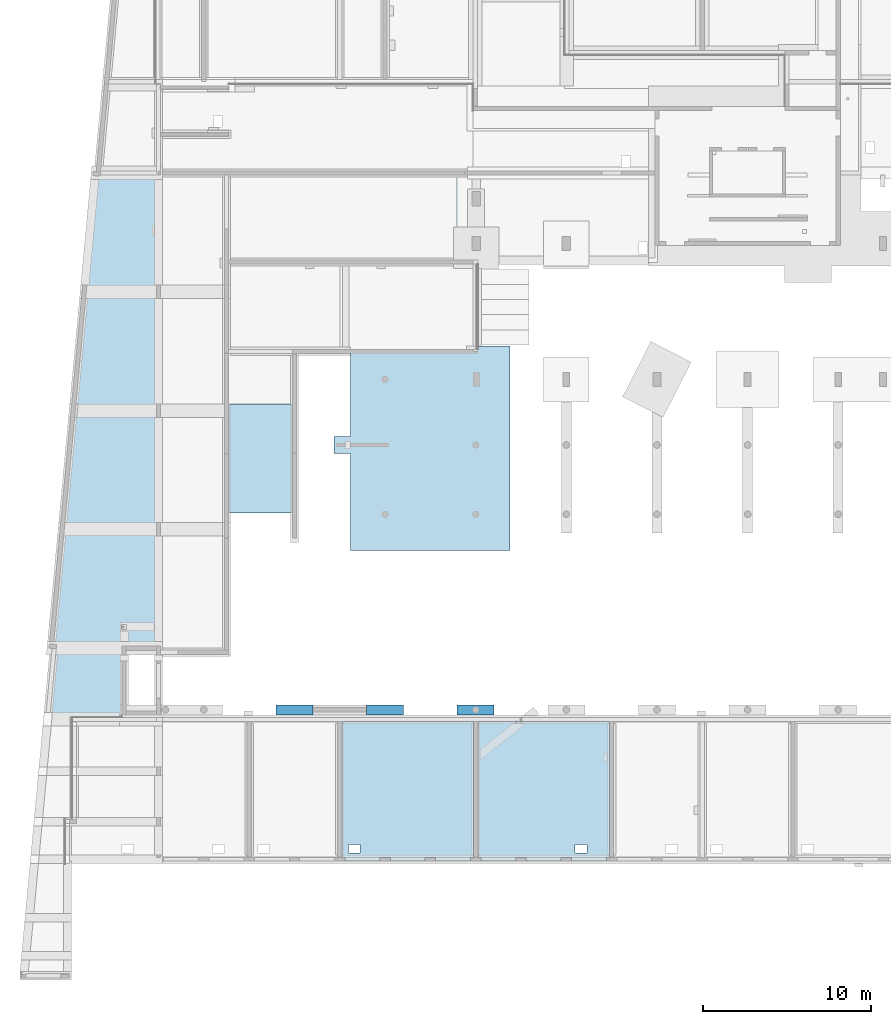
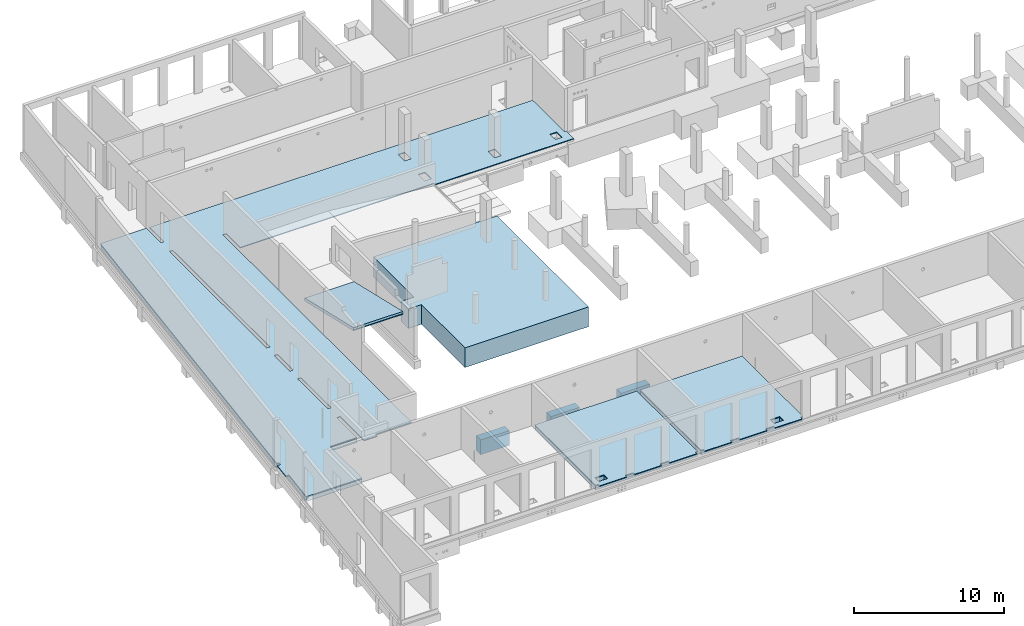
# One storey, part 21 of 60: 12 slabs, 42 openings.
"""IFC2X3 building model written with IfcOpenShell, lengths in millimetres."""

from ifc_helpers import new_model, entity, si_unit, converted_unit, derived_unit, direction, frame, frame_2d, origin, origin_2d_with_axis, place, context, subcontext, project, spatial, polyline, rectangle, outline, extrude, clip, halfspace, material, layer, layer_set, layer_usage, element, save


model = new_model("IFC2X3")

# Units and contexts
model_context = context("Model", 3, precision=0.01, world=origin(), true_north=direction((6.12303176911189e-17, 1.0)))
body_context = subcontext(model_context, "Body", "Model", "MODEL_VIEW")
ifc_project = project(units=[si_unit("LENGTHUNIT", "METRE", prefix="MILLI"), si_unit("AREAUNIT", "SQUARE_METRE"), si_unit("VOLUMEUNIT", "CUBIC_METRE"), converted_unit("PLANEANGLEUNIT", "DEGREE", entity("IfcRatioMeasure", 0.0174532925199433), si_unit("PLANEANGLEUNIT", "RADIAN"), dimensions=[0, 0, 0, 0, 0, 0, 0]), si_unit("MASSUNIT", "GRAM", prefix="KILO"), derived_unit("MASSDENSITYUNIT", [(si_unit("MASSUNIT", "GRAM", prefix="KILO"), 1), (si_unit("LENGTHUNIT", "METRE"), -3)]), si_unit("TIMEUNIT", "SECOND"), si_unit("FREQUENCYUNIT", "HERTZ"), si_unit("THERMODYNAMICTEMPERATUREUNIT", "DEGREE_CELSIUS"), derived_unit("THERMALTRANSMITTANCEUNIT", [(si_unit("MASSUNIT", "GRAM", prefix="KILO"), 1), (si_unit("THERMODYNAMICTEMPERATUREUNIT", "KELVIN"), -1), (si_unit("TIMEUNIT", "SECOND"), -3)]), derived_unit("VOLUMETRICFLOWRATEUNIT", [(si_unit("LENGTHUNIT", "METRE"), 3), (si_unit("TIMEUNIT", "SECOND"), -1)]), si_unit("ELECTRICCURRENTUNIT", "AMPERE"), si_unit("ELECTRICVOLTAGEUNIT", "VOLT"), si_unit("POWERUNIT", "WATT"), si_unit("FORCEUNIT", "NEWTON", prefix="KILO"), si_unit("ILLUMINANCEUNIT", "LUX"), si_unit("LUMINOUSFLUXUNIT", "LUMEN"), si_unit("LUMINOUSINTENSITYUNIT", "CANDELA"), derived_unit("USERDEFINED", [(si_unit("MASSUNIT", "GRAM", prefix="KILO"), -1), (si_unit("LENGTHUNIT", "METRE"), -2), (si_unit("TIMEUNIT", "SECOND"), 3), (si_unit("LUMINOUSFLUXUNIT", "LUMEN"), 1)]), derived_unit("LINEARVELOCITYUNIT", [(si_unit("LENGTHUNIT", "METRE"), 1), (si_unit("TIMEUNIT", "SECOND"), -1)]), si_unit("PRESSUREUNIT", "PASCAL"), derived_unit("USERDEFINED", [(si_unit("LENGTHUNIT", "METRE"), -2), (si_unit("MASSUNIT", "GRAM", prefix="KILO"), 1), (si_unit("TIMEUNIT", "SECOND"), -2)])], contexts=[model_context])

# Site, building, storey
site_placement = place(None, origin())
site = spatial("IfcSite", under=ifc_project, at=site_placement, Name="Default", CompositionType="ELEMENT")
building_placement = place(site_placement, origin())
building = spatial("IfcBuilding", under=site, at=building_placement, Name="niet gebruiken", CompositionType="ELEMENT")
storey_placement = place(building_placement, origin())
storey = spatial("IfcBuildingStorey", under=building, at=storey_placement, Name="00 begane grond", CompositionType="ELEMENT", Elevation=0.0)

# Slab, openings
ifc_material_1 = material(Name="NLRS_f2_beton ihwg")
ifc_layer_1 = layer(ifc_material_1, 70.0)
ifc_layer_set_1 = layer_set([ifc_layer_1], Name="Floor:NLRS_23.21_FL_druklaag d=70_gen")
ifc_layer_usage_1 = layer_usage(ifc_layer_set_1, "AXIS3", "POSITIVE", 0.0)
slab_1_placement = place(storey_placement, frame((2800.0, 200.0, -160.0)))
slab_1 = element("IfcSlab", 1, at=slab_1_placement, inside=storey, material=ifc_layer_usage_1, Name="Floor:NLRS_23.21_FL_druklaag d=70_gen:5", ObjectType="Floor:NLRS_23.21_FL_druklaag d=70_gen", PredefinedType="FLOOR", context=body_context, shape_type="SweptSolid", body=[
    extrude(outline(polyline([(33527.5000000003, -3948.0), (33712.5000000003, -3948.0), (33712.5000000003, 4148.0), (25862.5000000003, 4148.0), (25862.5000000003, -3948.0), (26047.5000000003, -3948.0), (26047.5000000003, -4148.0), (28127.5000000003, -4148.0), (28127.5000000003, -3948.0), (28747.5000000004, -3948.0), (28747.5000000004, -4148.0), (30827.5000000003, -4148.0), (30827.5000000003, -3948.0), (31447.5000000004, -3948.0), (31447.5000000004, -4148.0), (33527.5000000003, -4148.0), (33527.5000000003, -3948.0)])), frame((49937.5, 4148.0, 70.0), z_axis=(0.0, 0.0, -1.0), x_axis=(-1.0, 0.0, 0.0)), (0.0, 0.0, 1.0), 70.0),
])
placement_1 = place(storey_placement, frame((2800.0, 200.0, -160.0)))
placement_2 = place(placement_1, origin())
element("IfcOpeningElement", 2, at=placement_2, cuts=slab_1, ObjectType="Opening", context=body_context, shape_type="SweptSolid", body=[
    extrude(rectangle(XDim=699.999999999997, YDim=500.000000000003, at=origin_2d_with_axis()), frame((89870.0, 725.0, -380.0), z_axis=(0.0, 0.0, 1.0), x_axis=(-1.0, 0.0, 0.0)), (0.0, 0.0, 1.0), 450.0),
])
placement_3 = place(placement_1, origin())
element("IfcOpeningElement", 3, at=placement_3, cuts=slab_1, ObjectType="Opening", context=body_context, shape_type="SweptSolid", body=[
    extrude(rectangle(XDim=699.999999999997, YDim=500.000000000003, at=origin_2d_with_axis()), frame((92570.0, 725.0, -380.0), z_axis=(0.0, 0.0, 1.0), x_axis=(-1.0, 0.0, 0.0)), (0.0, 0.0, 1.0), 450.0),
])
placement_4 = place(placement_1, origin())
element("IfcOpeningElement", 4, at=placement_4, cuts=slab_1, ObjectType="Opening", context=body_context, shape_type="SweptSolid", body=[
    extrude(rectangle(XDim=699.999999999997, YDim=500.000000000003, at=origin_2d_with_axis()), frame((84470.0, 725.0, -380.0), z_axis=(0.0, 0.0, 1.0), x_axis=(-1.0, 0.0, 0.0)), (0.0, 0.0, 1.0), 450.0),
])
placement_5 = place(placement_1, origin())
element("IfcOpeningElement", 5, at=placement_5, cuts=slab_1, ObjectType="Opening", context=body_context, shape_type="SweptSolid", body=[
    extrude(rectangle(XDim=700.000000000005, YDim=500.000000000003, at=origin_2d_with_axis()), frame((70970.0, 725.0, -380.0), z_axis=(0.0, 0.0, 1.0), x_axis=(-1.0, 0.0, 0.0)), (0.0, 0.0, 1.0), 450.0),
])
placement_6 = place(placement_1, origin())
element("IfcOpeningElement", 6, at=placement_6, cuts=slab_1, ObjectType="Opening", context=body_context, shape_type="SweptSolid", body=[
    extrude(rectangle(XDim=700.000000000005, YDim=500.000000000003, at=origin_2d_with_axis()), frame((65570.0, 725.0, -380.0), z_axis=(0.0, 0.0, 1.0), x_axis=(-1.0, 0.0, 0.0)), (0.0, 0.0, 1.0), 450.0),
])
placement_7 = place(placement_1, origin())
element("IfcOpeningElement", 7, at=placement_7, cuts=slab_1, ObjectType="Opening", context=body_context, shape_type="SweptSolid", body=[
    extrude(rectangle(XDim=700.000000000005, YDim=500.000000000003, at=origin_2d_with_axis()), frame((62870.0, 725.0, -380.0), z_axis=(0.0, 0.0, 1.0), x_axis=(-1.0, 0.0, 0.0)), (0.0, 0.0, 1.0), 450.0),
])
placement_8 = place(placement_1, origin())
element("IfcOpeningElement", 8, at=placement_8, cuts=slab_1, ObjectType="Opening", context=body_context, shape_type="SweptSolid", body=[
    extrude(rectangle(XDim=700.000000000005, YDim=500.000000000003, at=origin_2d_with_axis()), frame((57470.0, 725.0, -380.0), z_axis=(0.0, 0.0, 1.0), x_axis=(-1.0, 0.0, 0.0)), (0.0, 0.0, 1.0), 450.0),
])
placement_9 = place(placement_1, origin())
element("IfcOpeningElement", 9, at=placement_9, cuts=slab_1, ObjectType="Opening", context=body_context, shape_type="SweptSolid", body=[
    extrude(rectangle(XDim=700.000000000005, YDim=500.000000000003, at=origin_2d_with_axis()), frame((43970.0, 725.0, -380.0), z_axis=(0.0, 0.0, 1.0), x_axis=(-1.0, 0.0, 0.0)), (0.0, 0.0, 1.0), 450.0),
])
placement_10 = place(placement_1, origin())
element("IfcOpeningElement", 10, at=placement_10, cuts=slab_1, ObjectType="Opening", context=body_context, shape_type="SweptSolid", body=[
    extrude(rectangle(XDim=700.000000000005, YDim=500.000000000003, at=origin_2d_with_axis()), frame((38570.0, 725.0, -380.0), z_axis=(0.0, 0.0, 1.0), x_axis=(-1.0, 0.0, 0.0)), (0.0, 0.0, 1.0), 450.0),
])
placement_11 = place(placement_1, origin())
element("IfcOpeningElement", 11, at=placement_11, cuts=slab_1, ObjectType="Opening", context=body_context, shape_type="SweptSolid", body=[
    extrude(rectangle(XDim=700.000000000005, YDim=500.000000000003, at=origin_2d_with_axis()), frame((35870.0, 725.0, -380.0), z_axis=(0.0, 0.0, 1.0), x_axis=(-1.0, 0.0, 0.0)), (0.0, 0.0, 1.0), 450.0),
])
placement_12 = place(placement_1, origin())
element("IfcOpeningElement", 12, at=placement_12, cuts=slab_1, ObjectType="Opening", context=body_context, shape_type="SweptSolid", body=[
    extrude(rectangle(XDim=700.000000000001, YDim=500.000000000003, at=origin_2d_with_axis()), frame((30470.0, 725.0, -380.0), z_axis=(0.0, 0.0, 1.0), x_axis=(-1.0, 0.0, 0.0)), (0.0, 0.0, 1.0), 450.0),
])
placement_13 = place(placement_1, origin())
element("IfcOpeningElement", 13, at=placement_13, cuts=slab_1, ObjectType="Opening", context=body_context, shape_type="SweptSolid", body=[
    extrude(rectangle(XDim=700.000000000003, YDim=500.000000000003, at=origin_2d_with_axis()), frame((16970.0, 725.0, -380.0), z_axis=(0.0, 0.0, 1.0), x_axis=(-1.0, 0.0, 0.0)), (0.0, 0.0, 1.0), 450.0),
])
placement_14 = place(placement_1, origin())
element("IfcOpeningElement", 14, at=placement_14, cuts=slab_1, ObjectType="Opening", context=body_context, shape_type="SweptSolid", body=[
    extrude(rectangle(XDim=700.000000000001, YDim=500.000000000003, at=origin_2d_with_axis()), frame((11570.0, 725.0, -380.0), z_axis=(0.0, 0.0, 1.0), x_axis=(-1.0, 0.0, 0.0)), (0.0, 0.0, 1.0), 450.0),
])
placement_15 = place(placement_1, origin())
element("IfcOpeningElement", 15, at=placement_15, cuts=slab_1, ObjectType="Opening", context=body_context, shape_type="SweptSolid", body=[
    extrude(rectangle(XDim=700.000000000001, YDim=500.000000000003, at=origin_2d_with_axis()), frame((8870.0, 725.0, -380.0), z_axis=(0.0, 0.0, 1.0), x_axis=(-1.0, 0.0, 0.0)), (0.0, 0.0, 1.0), 450.0),
])
placement_16 = place(placement_1, origin())
element("IfcOpeningElement", 16, at=placement_16, cuts=slab_1, ObjectType="Opening", context=body_context, shape_type="SweptSolid", body=[
    extrude(rectangle(XDim=700.000000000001, YDim=500.000000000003, at=origin_2d_with_axis()), frame((3470.0, 725.0, -380.0), z_axis=(0.0, 0.0, 1.0), x_axis=(-1.0, 0.0, 0.0)), (0.0, 0.0, 1.0), 450.0),
])
placement_17 = place(placement_1, origin())
element("IfcOpeningElement", 17, at=placement_17, cuts=slab_1, ObjectType="Opening", context=body_context, shape_type="SweptSolid", body=[
    extrude(rectangle(XDim=699.999999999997, YDim=500.000000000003, at=origin_2d_with_axis()), frame((99205.001708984, 4120.00003051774, -380.0), z_axis=(0.0, 0.0, 1.0), x_axis=(-1.0, 0.0, 0.0)), (0.0, 0.0, 1.0), 450.0),
])

slab_2_placement = place(storey_placement, frame((2800.0, 200.0, -160.0)))
slab_2 = element("IfcSlab", 18, at=slab_2_placement, inside=storey, material=ifc_layer_usage_1, Name="Floor:NLRS_23.21_FL_druklaag d=70_gen:6", ObjectType="Floor:NLRS_23.21_FL_druklaag d=70_gen", PredefinedType="FLOOR", context=body_context, shape_type="SweptSolid", body=[
    extrude(outline(polyline([(25427.5000000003, -3948.0), (25612.5000000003, -3948.0), (25612.5000000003, 4148.0), (17762.5000000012, 4148.0), (17762.5000000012, -3948.0), (17947.5000000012, -3948.0), (17947.5000000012, -4148.0), (20027.5000000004, -4148.0), (20027.5000000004, -3948.0), (20647.5000000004, -3948.0), (20647.5000000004, -4148.0), (22727.5000000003, -4148.0), (22727.5000000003, -3948.0), (23347.5000000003, -3948.0), (23347.5000000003, -4148.0), (25427.5000000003, -4148.0), (25427.5000000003, -3948.0)])), frame((49937.5, 4148.0, 70.0), z_axis=(0.0, 0.0, -1.0), x_axis=(-1.0, 0.0, 0.0)), (0.0, 0.0, 1.0), 70.0),
])
element("IfcOpeningElement", 19, at=placement_2, cuts=slab_2, ObjectType="Opening", context=body_context, shape_type="SweptSolid", body=[
    extrude(rectangle(XDim=699.999999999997, YDim=500.000000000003, at=origin_2d_with_axis()), frame((89870.0, 725.0, -380.0), z_axis=(0.0, 0.0, 1.0), x_axis=(-1.0, 0.0, 0.0)), (0.0, 0.0, 1.0), 450.0),
])
element("IfcOpeningElement", 20, at=placement_3, cuts=slab_2, ObjectType="Opening", context=body_context, shape_type="SweptSolid", body=[
    extrude(rectangle(XDim=699.999999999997, YDim=500.000000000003, at=origin_2d_with_axis()), frame((92570.0, 725.0, -380.0), z_axis=(0.0, 0.0, 1.0), x_axis=(-1.0, 0.0, 0.0)), (0.0, 0.0, 1.0), 450.0),
])
element("IfcOpeningElement", 21, at=placement_4, cuts=slab_2, ObjectType="Opening", context=body_context, shape_type="SweptSolid", body=[
    extrude(rectangle(XDim=699.999999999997, YDim=500.000000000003, at=origin_2d_with_axis()), frame((84470.0, 725.0, -380.0), z_axis=(0.0, 0.0, 1.0), x_axis=(-1.0, 0.0, 0.0)), (0.0, 0.0, 1.0), 450.0),
])
element("IfcOpeningElement", 22, at=placement_5, cuts=slab_2, ObjectType="Opening", context=body_context, shape_type="SweptSolid", body=[
    extrude(rectangle(XDim=700.000000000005, YDim=500.000000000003, at=origin_2d_with_axis()), frame((70970.0, 725.0, -380.0), z_axis=(0.0, 0.0, 1.0), x_axis=(-1.0, 0.0, 0.0)), (0.0, 0.0, 1.0), 450.0),
])
element("IfcOpeningElement", 23, at=placement_6, cuts=slab_2, ObjectType="Opening", context=body_context, shape_type="SweptSolid", body=[
    extrude(rectangle(XDim=700.000000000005, YDim=500.000000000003, at=origin_2d_with_axis()), frame((65570.0, 725.0, -380.0), z_axis=(0.0, 0.0, 1.0), x_axis=(-1.0, 0.0, 0.0)), (0.0, 0.0, 1.0), 450.0),
])
element("IfcOpeningElement", 24, at=placement_7, cuts=slab_2, ObjectType="Opening", context=body_context, shape_type="SweptSolid", body=[
    extrude(rectangle(XDim=700.000000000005, YDim=500.000000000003, at=origin_2d_with_axis()), frame((62870.0, 725.0, -380.0), z_axis=(0.0, 0.0, 1.0), x_axis=(-1.0, 0.0, 0.0)), (0.0, 0.0, 1.0), 450.0),
])
element("IfcOpeningElement", 25, at=placement_8, cuts=slab_2, ObjectType="Opening", context=body_context, shape_type="SweptSolid", body=[
    extrude(rectangle(XDim=700.000000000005, YDim=500.000000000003, at=origin_2d_with_axis()), frame((57470.0, 725.0, -380.0), z_axis=(0.0, 0.0, 1.0), x_axis=(-1.0, 0.0, 0.0)), (0.0, 0.0, 1.0), 450.0),
])
element("IfcOpeningElement", 26, at=placement_9, cuts=slab_2, ObjectType="Opening", context=body_context, shape_type="SweptSolid", body=[
    extrude(rectangle(XDim=700.000000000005, YDim=500.000000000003, at=origin_2d_with_axis()), frame((43970.0, 725.0, -380.0), z_axis=(0.0, 0.0, 1.0), x_axis=(-1.0, 0.0, 0.0)), (0.0, 0.0, 1.0), 450.0),
])
element("IfcOpeningElement", 27, at=placement_10, cuts=slab_2, ObjectType="Opening", context=body_context, shape_type="SweptSolid", body=[
    extrude(rectangle(XDim=700.000000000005, YDim=500.000000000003, at=origin_2d_with_axis()), frame((38570.0, 725.0, -380.0), z_axis=(0.0, 0.0, 1.0), x_axis=(-1.0, 0.0, 0.0)), (0.0, 0.0, 1.0), 450.0),
])
element("IfcOpeningElement", 28, at=placement_11, cuts=slab_2, ObjectType="Opening", context=body_context, shape_type="SweptSolid", body=[
    extrude(rectangle(XDim=700.000000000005, YDim=500.000000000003, at=origin_2d_with_axis()), frame((35870.0, 725.0, -380.0), z_axis=(0.0, 0.0, 1.0), x_axis=(-1.0, 0.0, 0.0)), (0.0, 0.0, 1.0), 450.0),
])
element("IfcOpeningElement", 29, at=placement_12, cuts=slab_2, ObjectType="Opening", context=body_context, shape_type="SweptSolid", body=[
    extrude(rectangle(XDim=700.000000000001, YDim=500.000000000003, at=origin_2d_with_axis()), frame((30470.0, 725.0, -380.0), z_axis=(0.0, 0.0, 1.0), x_axis=(-1.0, 0.0, 0.0)), (0.0, 0.0, 1.0), 450.0),
])
element("IfcOpeningElement", 30, at=placement_13, cuts=slab_2, ObjectType="Opening", context=body_context, shape_type="SweptSolid", body=[
    extrude(rectangle(XDim=700.000000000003, YDim=500.000000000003, at=origin_2d_with_axis()), frame((16970.0, 725.0, -380.0), z_axis=(0.0, 0.0, 1.0), x_axis=(-1.0, 0.0, 0.0)), (0.0, 0.0, 1.0), 450.0),
])
element("IfcOpeningElement", 31, at=placement_14, cuts=slab_2, ObjectType="Opening", context=body_context, shape_type="SweptSolid", body=[
    extrude(rectangle(XDim=700.000000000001, YDim=500.000000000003, at=origin_2d_with_axis()), frame((11570.0, 725.0, -380.0), z_axis=(0.0, 0.0, 1.0), x_axis=(-1.0, 0.0, 0.0)), (0.0, 0.0, 1.0), 450.0),
])
element("IfcOpeningElement", 32, at=placement_15, cuts=slab_2, ObjectType="Opening", context=body_context, shape_type="SweptSolid", body=[
    extrude(rectangle(XDim=700.000000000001, YDim=500.000000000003, at=origin_2d_with_axis()), frame((8870.0, 725.0, -380.0), z_axis=(0.0, 0.0, 1.0), x_axis=(-1.0, 0.0, 0.0)), (0.0, 0.0, 1.0), 450.0),
])
element("IfcOpeningElement", 33, at=placement_16, cuts=slab_2, ObjectType="Opening", context=body_context, shape_type="SweptSolid", body=[
    extrude(rectangle(XDim=700.000000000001, YDim=500.000000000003, at=origin_2d_with_axis()), frame((3470.0, 725.0, -380.0), z_axis=(0.0, 0.0, 1.0), x_axis=(-1.0, 0.0, 0.0)), (0.0, 0.0, 1.0), 450.0),
])
element("IfcOpeningElement", 34, at=placement_17, cuts=slab_2, ObjectType="Opening", context=body_context, shape_type="SweptSolid", body=[
    extrude(rectangle(XDim=699.999999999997, YDim=500.000000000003, at=origin_2d_with_axis()), frame((99205.001708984, 4120.00003051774, -380.0), z_axis=(0.0, 0.0, 1.0), x_axis=(-1.0, 0.0, 0.0)), (0.0, 0.0, 1.0), 450.0),
])

# Slab, opening
ifc_material_2 = material(Name="NLRS_f2_beton prefab")
ifc_layer_2 = layer(ifc_material_2, 200.0)
ifc_material_3 = material(Name="NLRS_n7_isolatie EPS")
ifc_layer_3 = layer(ifc_material_3, 132.0)
ifc_layer_set_2 = layer_set([ifc_layer_2, ifc_layer_3], Name="Floor:NLRS_23.21_FL_geisoleerde kanaalplaat d=200 rc 3.5 iso132_gen")
ifc_layer_usage_2 = layer_usage(ifc_layer_set_2, "AXIS3", "POSITIVE", 0.0)
slab_3_placement = place(storey_placement, frame((19045.0, 420.0, -492.0)))
slab_3 = element("IfcSlab", 35, at=slab_3_placement, inside=storey, material=ifc_layer_usage_2, Name="Floor:NLRS_23.21_FL_geisoleerde kanaalplaat d=200 rc 3.5 iso132_gen", ObjectType="Floor:NLRS_23.21_FL_geisoleerde kanaalplaat d=200 rc 3.5 iso132_gen", PredefinedType="FLOOR", context=body_context, shape_type="SweptSolid", body=[
    extrude(rectangle(XDim=8056.0000000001, YDim=7809.99999999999, at=frame_2d((0.0, 0.0), x_axis=(0.0, -1.0))), frame((3905.0, 4028.0, 332.0), z_axis=(0.0, 0.0, -1.0), x_axis=(-1.0, 0.0, 0.0)), (0.0, 0.0, 1.0), 332.0),
])
opening_33_placement = place(slab_3_placement, origin())
element("IfcOpeningElement", 36, at=opening_33_placement, cuts=slab_3, ObjectType="Opening", context=body_context, shape_type="SweptSolid", body=[
    extrude(rectangle(XDim=700.000000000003, YDim=500.000000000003, at=origin_2d_with_axis()), frame((725.0, 505.0, -48.0), z_axis=(0.0, 0.0, 1.0), x_axis=(-1.0, 0.0, 0.0)), (0.0, 0.0, 1.0), 450.0),
])

ifc_layer_usage_3 = layer_usage(ifc_layer_set_2, "AXIS3", "POSITIVE", 0.0)
slab_4_placement = place(storey_placement, frame((27145.0, 420.0, -492.0)))
slab_4 = element("IfcSlab", 37, at=slab_4_placement, inside=storey, material=ifc_layer_usage_3, Name="Floor:NLRS_23.21_FL_geisoleerde kanaalplaat d=200 rc 3.5 iso132_gen", ObjectType="Floor:NLRS_23.21_FL_geisoleerde kanaalplaat d=200 rc 3.5 iso132_gen", PredefinedType="FLOOR", context=body_context, shape_type="SweptSolid", body=[
    extrude(rectangle(XDim=8056.00000000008, YDim=7809.99999999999, at=frame_2d((0.0, 0.0), x_axis=(0.0, -1.0))), frame((3905.0, 4028.0, 332.0), z_axis=(0.0, 0.0, -1.0), x_axis=(-1.0, 0.0, 0.0)), (0.0, 0.0, 1.0), 332.0),
])
opening_34_placement = place(slab_4_placement, origin())
element("IfcOpeningElement", 38, at=opening_34_placement, cuts=slab_4, ObjectType="Opening", context=body_context, shape_type="SweptSolid", body=[
    extrude(rectangle(XDim=700.000000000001, YDim=500.000000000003, at=origin_2d_with_axis()), frame((6125.0, 505.0, -48.0), z_axis=(0.0, 0.0, 1.0), x_axis=(-1.0, 0.0, 0.0)), (0.0, 0.0, 1.0), 450.0),
])

# Slabs
ifc_layer_4 = layer(ifc_material_1, 1600.0)
ifc_layer_set_3 = layer_set([ifc_layer_4], Name="Floor:NLRS_13.22_FL_beton ihwg d=1600_gen")
ifc_layer_usage_4 = layer_usage(ifc_layer_set_3, "AXIS3", "POSITIVE", 0.0)
slab_5_placement = place(storey_placement, origin())
element("IfcSlab", 39, at=slab_5_placement, inside=storey, material=ifc_layer_usage_4, Name="Floor:NLRS_13.22_FL_beton ihwg d=1600_gen", ObjectType="Floor:NLRS_13.22_FL_beton ihwg d=1600_gen", PredefinedType="BASESLAB", context=body_context, shape_type="SweptSolid", body=[
    extrude(outline(polyline([(-402.499999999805, -3125.0), (597.500000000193, -3125.0), (597.500000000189, -2125.0), (6002.49999999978, -2125.0), (6002.49999999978, 7375.0), (-6197.50000000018, 7375.0), (-6197.50000000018, -2125.0), (-402.499999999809, -2125.0), (-402.499999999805, -3125.0)])), frame((21675.0, 24878.5000000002, -200.0), z_axis=(0.0, 0.0, -1.0), x_axis=(0.0, 1.0, 0.0)), (0.0, 0.0, 1.0), 1600.0),
])
ifc_layer_5 = layer(ifc_material_1, 250.0)
ifc_layer_set_4 = layer_set([ifc_layer_5], Name="Floor:NLRS_23.21_FL_breedplaat d=70/250_opgeruwd_schil apart_gen")
ifc_layer_usage_5 = layer_usage(ifc_layer_set_4, "AXIS3", "POSITIVE", 0.0)
slab_6_placement = place(storey_placement, frame((12275.0, 20926.0, 843.255474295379)))
element("IfcSlab", 40, at=slab_6_placement, inside=storey, material=ifc_layer_usage_5, Name="Floor:NLRS_23.21_FL_breedplaat d=70/250_opgeruwd_schil apart_gen", ObjectType="Floor:NLRS_23.21_FL_breedplaat d=70/250_opgeruwd_schil apart_gen", PredefinedType="FLOOR", context=body_context, shape_type="SweptSolid", body=[
    extrude(rectangle(XDim=6675.3576683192, YDim=3800.00000000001, at=frame_2d((0.0, -3337.6788341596), x_axis=(0.0, -1.0))), frame((1900.0, 6500.0, 256.744525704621), z_axis=(0.0, 0.227703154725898, 0.97373059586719), x_axis=(1.0, 0.0, 0.0)), (0.0, 0.227703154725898, -0.97373059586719), 256.744525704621),
])

# Slab, openings
ifc_layer_6 = layer(ifc_material_1, 70.0)
ifc_layer_set_5 = layer_set([ifc_layer_6], Name="Floor:NLRS_23.21_FL_druklaag d=70 - gevlinderd_gen")
ifc_layer_usage_6 = layer_usage(ifc_layer_set_5, "AXIS3", "POSITIVE", 0.0)
slab_7_placement = place(storey_placement, frame((1627.87026611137, 8766.0, -70.0)))
slab_7 = element("IfcSlab", 41, at=slab_7_placement, inside=storey, material=ifc_layer_usage_6, Name="Floor:NLRS_23.21_FL_druklaag d=70 - gevlinderd_gen", ObjectType="Floor:NLRS_23.21_FL_druklaag d=70 - gevlinderd_gen", PredefinedType="FLOOR", context=body_context, shape_type="SweptSolid", body=[
    extrude(outline(polyline([(7701.43513305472, -12157.5000000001), (10476.5031204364, -12157.5000000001), (10476.5031204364, -12407.5000000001), (11501.4351330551, -12407.5000000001), (11501.4351330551, -9227.49999999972), (11751.4351330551, -9227.49999999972), (11751.4351330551, -11907.5000000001), (13801.4351330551, -11907.5000000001), (13801.4351330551, -16147.4999999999), (18098.5648669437, -16147.4999999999), (17844.0179637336, -13401.4123304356), (18092.9508047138, -13378.3376542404), (17970.1935273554, -12054.0149402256), (17721.2606863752, -12077.0896164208), (17698.18601018, -11828.1567754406), (17877.4176556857, -11811.5430085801), (15285.7714043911, 16147.5), (11751.4351330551, 16147.5), (11751.4351330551, 14217.5000000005), (11501.4351330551, 14217.5000000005), (11501.4351330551, 16147.5), (-17948.5648669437, 16147.4999999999), (-17948.5648669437, 11942.4999999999), (-18098.5648669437, 11942.4999999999), (-18098.5648669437, 10942.5), (-7423.56486694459, 10942.5), (-7423.56486694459, 11092.5), (7451.43513305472, 11092.5), (7451.43513305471, 12942.5000000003), (7701.43513305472, 12942.5000000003), (7701.43513305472, -12157.5000000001)])), frame((18098.5648669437, 16147.4999999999, 70.0), z_axis=(0.0, 0.0, -1.0), x_axis=(-1.0, 0.0, 0.0)), (0.0, 0.0, 1.0), 70.0),
])
opening_35_placement = place(slab_7_placement, origin())
element("IfcOpeningElement", 42, at=opening_35_placement, cuts=slab_7, ObjectType="Opening", context=body_context, shape_type="SweptSolid", body=[
    extrude(rectangle(XDim=700.000000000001, YDim=500.000000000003, at=origin_2d_with_axis()), frame((35332.1238696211, 27950.0028686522, -380.0), z_axis=(0.0, 0.0, 1.0), x_axis=(0.0, -1.0, 0.0)), (0.0, 0.0, 1.0), 450.0),
])
opening_36_placement = place(slab_7_placement, frame((25397.1297338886, 30890.0, 70.0)))
element("IfcOpeningElement", 43, at=opening_36_placement, cuts=slab_7, Name="Floor:NLRS_23.21_FL_druklaag d=70 - gevlinderd_gen:2", ObjectType="Opening", context=body_context, shape_type="SweptSolid", body=[
    extrude(rectangle(XDim=500.000000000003, YDim=849.999999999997, at=origin_2d_with_axis()), frame((0.0, 0.0, 0.0), z_axis=(0.0, 0.0, -1.0), x_axis=(-1.0, 0.0, 0.0)), (0.0, 0.0, 1.0), 70.0),
])
opening_37_placement = place(slab_7_placement, frame((25397.1297338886, 28215.0, 70.0)))
element("IfcOpeningElement", 44, at=opening_37_placement, cuts=slab_7, Name="Floor:NLRS_23.21_FL_druklaag d=70 - gevlinderd_gen:3", ObjectType="Opening", context=body_context, shape_type="SweptSolid", body=[
    extrude(rectangle(XDim=500.000000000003, YDim=850.000000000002, at=origin_2d_with_axis()), frame((0.0, 0.0, 0.0), z_axis=(0.0, 0.0, -1.0), x_axis=(-1.0, 0.0, 0.0)), (0.0, 0.0, 1.0), 70.0),
])
opening_38_placement = place(slab_7_placement, frame((30772.1297338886, 28215.0, 70.0)))
element("IfcOpeningElement", 45, at=opening_38_placement, cuts=slab_7, Name="Floor:NLRS_23.21_FL_druklaag d=70 - gevlinderd_gen:4", ObjectType="Opening", context=body_context, shape_type="SweptSolid", body=[
    extrude(rectangle(XDim=499.999999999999, YDim=849.999999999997, at=origin_2d_with_axis()), frame((0.0, 0.0, 0.0), z_axis=(0.0, 0.0, -1.0), x_axis=(-1.0, 0.0, 0.0)), (0.0, 0.0, 1.0), 70.0),
])
opening_39_placement = place(slab_7_placement, frame((6472.12973388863, 10125.0, 70.0)))
element("IfcOpeningElement", 46, at=opening_39_placement, cuts=slab_7, Name="Floor:NLRS_23.21_FL_druklaag d=70 - gevlinderd_gen:5", ObjectType="Opening", context=body_context, shape_type="SweptSolid", body=[
    extrude(rectangle(XDim=4009.99999999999, YDim=249.999999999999, at=origin_2d_with_axis()), frame((0.0, 0.0, 0.0), z_axis=(0.0, 0.0, -1.0), x_axis=(0.0, 1.0, 0.0)), (0.0, 0.0, 1.0), 70.0),
])
opening_40_placement = place(slab_7_placement, frame((6472.12973388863, 22732.3113808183, 70.0)))
element("IfcOpeningElement", 47, at=opening_40_placement, cuts=slab_7, Name="Floor:NLRS_23.21_FL_druklaag d=70 - gevlinderd_gen:6", ObjectType="Opening", context=body_context, shape_type="SweptSolid", body=[
    extrude(rectangle(XDim=249.999999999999, YDim=12915.3772383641, at=origin_2d_with_axis()), frame((0.0, 0.0, 0.0), z_axis=(0.0, 0.0, -1.0), x_axis=(1.0, 0.0, 0.0)), (0.0, 0.0, 1.0), 70.0),
])
opening_41_placement = place(slab_7_placement, frame((6472.12973388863, 14202.3113808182, 70.0)))
element("IfcOpeningElement", 48, at=opening_41_placement, cuts=slab_7, Name="Floor:NLRS_23.21_FL_druklaag d=70 - gevlinderd_gen:7", ObjectType="Opening", context=body_context, shape_type="SweptSolid", body=[
    extrude(rectangle(XDim=249.999999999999, YDim=2094.6227616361, at=origin_2d_with_axis()), frame((0.0, 0.0, 0.0), z_axis=(0.0, 0.0, -1.0), x_axis=(-1.0, 0.0, 0.0)), (0.0, 0.0, 1.0), 70.0),
])

# Slab, opening
ifc_layer_usage_7 = layer_usage(ifc_layer_set_2, "AXIS3", "POSITIVE", 0.0)
slab_8_placement = place(storey_placement, frame((1647.95600482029, 8766.0, -402.0)))
slab_8 = element("IfcSlab", 49, at=slab_8_placement, inside=storey, material=ifc_layer_usage_7, Name="Floor:NLRS_23.21_FL_geisoleerde kanaalplaat d=200 rc 3.5 iso132_gen", ObjectType="Floor:NLRS_23.21_FL_geisoleerde kanaalplaat d=200 rc 3.5 iso132_gen", PredefinedType="FLOOR", context=body_context, shape_type="SweptSolid", body=[
    extrude(outline(polyline([(1544.53797169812, 16194.3169641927), (1365.25380437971, 16177.7248518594), (1358.72474613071, 16248.2738421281), (-1956.56794812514, 16248.2738421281), (-1956.56794812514, -11786.726157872), (93.4320518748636, -11786.726157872), (93.4320518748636, -16026.7261578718), (4350.47604705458, -16026.7261578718), (3948.74537309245, -11692.7993399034), (4127.97701859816, -11676.1855730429), (1544.53797169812, 16194.3169641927)])), frame((4350.47604705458, 16026.7261578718, 332.0), z_axis=(0.0, 0.0, -1.0), x_axis=(-1.0, 0.0, 0.0)), (0.0, 0.0, 1.0), 332.0),
])
opening_42_placement = place(slab_8_placement, frame((4402.04399517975, 5372.0, 332.0)))
element("IfcOpeningElement", 50, at=opening_42_placement, cuts=slab_8, Name="Floor:NLRS_23.21_FL_geisoleerde kanaalplaat d=200 rc 3.5 iso132_gen:2", ObjectType="Opening", context=body_context, shape_type="SweptSolid", body=[
    extrude(rectangle(XDim=299.999999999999, YDim=300.0, at=origin_2d_with_axis()), frame((0.0, 0.0, 0.0), z_axis=(0.0, 0.0, -1.0), x_axis=(0.0, -1.0, 0.0)), (0.0, 0.0, 1.0), 332.0),
])

# Slabs
slab_9_placement = place(storey_placement, origin())
element("IfcSlab", 51, at=slab_9_placement, inside=storey, material=ifc_material_1, Name="NLRS_16.13_SFO_LB_fundatiepoer_gen:600x2200x1200", ObjectType="NLRS_16.13_SFO_LB_fundatiepoer_gen:600x2200x1200", PredefinedType="BASESLAB", context=body_context, shape_type="SweptSolid", body=[
    extrude(rectangle(XDim=2200.0, YDim=600.0, at=frame_2d((1.13686837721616e-12, 0.0), x_axis=(1.0, 0.0))), frame((16200.0, 9196.0, -1400.0), z_axis=(0.0, 0.0, 1.0), x_axis=(-1.0, 0.0, 0.0)), (0.0, 0.0, 1.0), 1200.0),
])
slab_10_placement = place(storey_placement, origin())
element("IfcSlab", 52, at=slab_10_placement, inside=storey, material=ifc_material_1, Name="NLRS_16.13_SFO_LB_fundatiepoer_gen:600x2200x1200", ObjectType="NLRS_16.13_SFO_LB_fundatiepoer_gen:600x2200x1200", PredefinedType="BASESLAB", context=body_context, shape_type="SweptSolid", body=[
    extrude(rectangle(XDim=2200.0, YDim=600.0, at=frame_2d((-2.1600499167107e-12, 0.0), x_axis=(1.0, 0.0))), frame((21600.0, 9196.0, -1400.0), z_axis=(0.0, 0.0, 1.0), x_axis=(-1.0, 0.0, 0.0)), (0.0, 0.0, 1.0), 1200.0),
])
slab_11_placement = place(storey_placement, origin())
element("IfcSlab", 53, at=slab_11_placement, inside=storey, material=ifc_material_1, Name="NLRS_16.13_SFO_LB_fundatiepoer_gen:600x2200x1200", ObjectType="NLRS_16.13_SFO_LB_fundatiepoer_gen:600x2200x1200", PredefinedType="BASESLAB", context=body_context, shape_type="SweptSolid", body=[
    extrude(rectangle(XDim=2200.0, YDim=600.0, at=frame_2d((-2.1600499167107e-12, 0.0), x_axis=(1.0, 0.0))), frame((27000.0, 9196.0, -1400.0), z_axis=(0.0, 0.0, 1.0), x_axis=(-1.0, 0.0, 0.0)), (0.0, 0.0, 1.0), 1200.0),
])
ifc_layer_7 = layer(ifc_material_2, 70.0)
ifc_layer_set_6 = layer_set([ifc_layer_7], Name="Floor:NLRS_23.21_FL_breedplaatschil d=70_gen")
ifc_layer_usage_8 = layer_usage(ifc_layer_set_6, "AXIS3", "POSITIVE", 0.0)
slab_12_placement = place(storey_placement, origin())
element("IfcSlab", 54, at=slab_12_placement, inside=storey, material=ifc_layer_usage_8, Name="Floor:NLRS_23.21_FL_breedplaatschil d=70_gen", ObjectType="Floor:NLRS_23.21_FL_breedplaatschil d=70_gen", PredefinedType="FLOOR", context=body_context, shape_type="Clipping", body=[
    clip(clip(extrude(rectangle(XDim=6675.3576683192, YDim=3760.00000000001, at=frame_2d((0.0, -2.1600499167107e-12), x_axis=(1.0, 0.0))), frame((14175.0, 24176.0, 1675.14394149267), z_axis=(0.0, -0.227703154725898, -0.97373059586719), x_axis=(0.0, 0.97373059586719, -0.227703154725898)), (0.227703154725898, 0.0, 0.97373059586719), 73.8278816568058), halfspace(frame((14175.0, 27426.0, 843.255474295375), z_axis=(0.0, -0.227703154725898, -0.97373059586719), x_axis=(0.0, -0.97373059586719, 0.227703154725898)), False)), halfspace(frame((14175.0, 27426.0, 915.143941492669), z_axis=(0.0, 0.227703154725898, 0.97373059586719), x_axis=(0.0, 0.97373059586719, -0.227703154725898)), False)),
])

save(model, "model.ifc")
